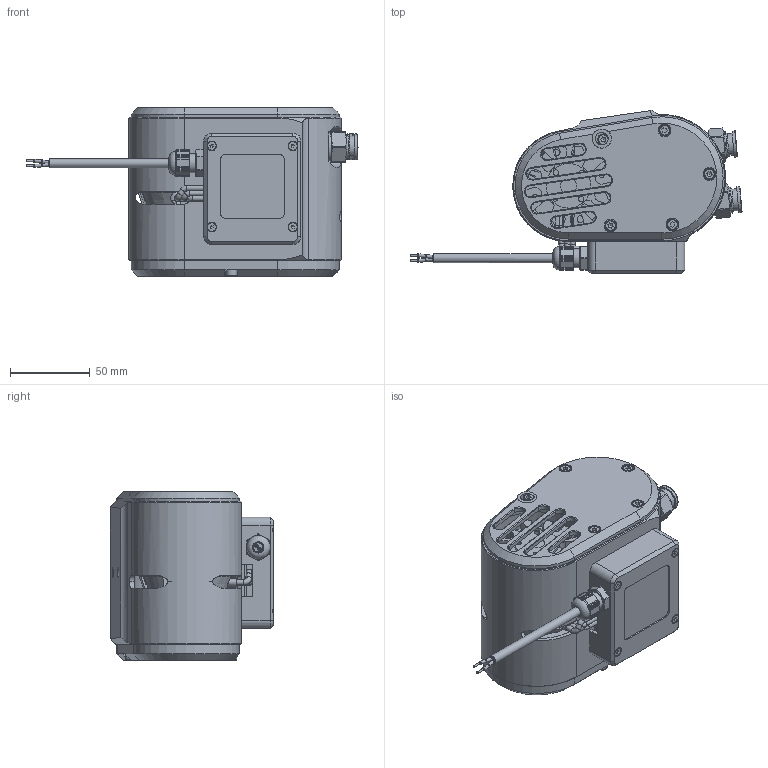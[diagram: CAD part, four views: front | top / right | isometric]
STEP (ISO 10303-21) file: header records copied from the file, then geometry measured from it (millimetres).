
FILE_DESCRIPTION (( 'STEP AP214' ), '1' );
FILE_NAME ('V4000-TCS REV 3.STEP', '2023-01-20T11:23:45', ( '' ), ( '' ), 'SwSTEP 2.0', 'SolidWorks 2021', '' );
FILE_SCHEMA (( 'AUTOMOTIVE_DESIGN' ));
Length unit declared in the file: millimetre
Products named in the file (1): V4000-TCS REV 3
Bounding box: 208.77 x 102.56 x 106 mm (x, y, z)
Surface area: 115385.7 mm2 (no closed solid volume)
Topology: 0 solids, 37 shells, 584 faces, 2138 edges, 1538 vertices
Faces by surface type: plane 292, cylinder 191, cone 61, torus 21, bspline 17, sphere 2
Full cylindrical faces by diameter (mm): 1.2 x2, 2 x6, 3.4 x2, 3.5 x4, 4 x2, 4.2 x3, 5 x2, 5.35 x4, 5.7 x1, 5.999 x4, 6 x1, 6.1 x1, 7 x7, 8 x5, 10 x1, 10.15 x2, 11.95 x1, 12 x2, 13.7 x2, 16.3 x2, 16.4 x2, 17.8 x2, 28 x1, 55 x1, 59 x2, 59.6 x1, 65 x1
Entity records: 31216 total; most frequent: CARTESIAN_POINT 7561, DIRECTION 3464, ORIENTED_EDGE 3077, EDGE_CURVE 2001, VERTEX_POINT 1509, LINE 1216, VECTOR 1216, AXIS2_PLACEMENT_3D 1124
